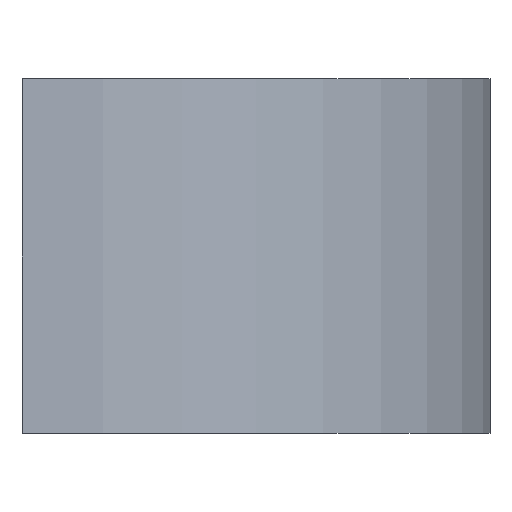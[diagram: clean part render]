
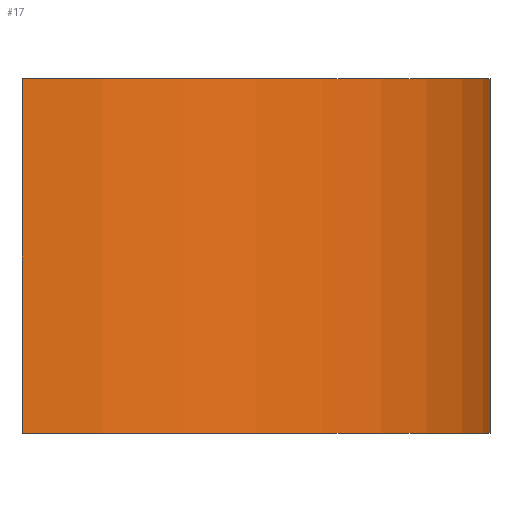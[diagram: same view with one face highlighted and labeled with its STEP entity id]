
A CAD part, front view. The second image highlights one B-rep face of the part: STEP entity #17.
In plain terms, the highlighted cylindrical face has radius 4.49 mm (diameter 8.98 mm), a partial arc.
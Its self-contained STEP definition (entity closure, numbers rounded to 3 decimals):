
#17 = ADVANCED_FACE('',(#18),#32,.T.);
#18 = FACE_BOUND('',#19,.T.);
#19 = EDGE_LOOP('',(#20,#55,#84,#110));
#20 = ORIENTED_EDGE('',*,*,#21,.T.);
#21 = EDGE_CURVE('',#22,#24,#26,.T.);
#22 = VERTEX_POINT('',#23);
#23 = CARTESIAN_POINT('',(4.49,0.,1.8));
#24 = VERTEX_POINT('',#25);
#25 = CARTESIAN_POINT('',(4.49,0.,5.2));
#26 = SURFACE_CURVE('',#27,(#31,#43),.PCURVE_S1.);
#27 = LINE('',#28,#29);
#28 = CARTESIAN_POINT('',(4.49,0.,1.8));
#29 = VECTOR('',#30,1.);
#30 = DIRECTION('',(0.,0.,1.));
#31 = PCURVE('',#32,#37);
#32 = CYLINDRICAL_SURFACE('',#33,4.49);
#33 = AXIS2_PLACEMENT_3D('',#34,#35,#36);
#34 = CARTESIAN_POINT('',(0.,0.,1.8));
#35 = DIRECTION('',(0.,0.,1.));
#36 = DIRECTION('',(1.,0.,-0.));
#37 = DEFINITIONAL_REPRESENTATION('',(#38),#42);
#38 = LINE('',#39,#40);
#39 = CARTESIAN_POINT('',(6.283,-0.));
#40 = VECTOR('',#41,1.);
#41 = DIRECTION('',(0.,1.));
#42 = ( GEOMETRIC_REPRESENTATION_CONTEXT(2) 
PARAMETRIC_REPRESENTATION_CONTEXT() REPRESENTATION_CONTEXT('2D SPACE',''
  ) );
#43 = PCURVE('',#44,#49);
#44 = CYLINDRICAL_SURFACE('',#45,4.49);
#45 = AXIS2_PLACEMENT_3D('',#46,#47,#48);
#46 = CARTESIAN_POINT('',(0.,0.,1.8));
#47 = DIRECTION('',(0.,0.,1.));
#48 = DIRECTION('',(1.,0.,-0.));
#49 = DEFINITIONAL_REPRESENTATION('',(#50),#54);
#50 = LINE('',#51,#52);
#51 = CARTESIAN_POINT('',(0.,-0.));
#52 = VECTOR('',#53,1.);
#53 = DIRECTION('',(0.,1.));
#54 = ( GEOMETRIC_REPRESENTATION_CONTEXT(2) 
PARAMETRIC_REPRESENTATION_CONTEXT() REPRESENTATION_CONTEXT('2D SPACE',''
  ) );
#55 = ORIENTED_EDGE('',*,*,#56,.F.);
#56 = EDGE_CURVE('',#57,#24,#59,.T.);
#57 = VERTEX_POINT('',#58);
#58 = CARTESIAN_POINT('',(0.,-4.49,5.2));
#59 = SURFACE_CURVE('',#60,(#65,#72),.PCURVE_S1.);
#60 = CIRCLE('',#61,4.49);
#61 = AXIS2_PLACEMENT_3D('',#62,#63,#64);
#62 = CARTESIAN_POINT('',(0.,0.,5.2));
#63 = DIRECTION('',(0.,0.,1.));
#64 = DIRECTION('',(1.,0.,-0.));
#65 = PCURVE('',#32,#66);
#66 = DEFINITIONAL_REPRESENTATION('',(#67),#71);
#67 = LINE('',#68,#69);
#68 = CARTESIAN_POINT('',(0.,3.4));
#69 = VECTOR('',#70,1.);
#70 = DIRECTION('',(1.,0.));
#71 = ( GEOMETRIC_REPRESENTATION_CONTEXT(2) 
PARAMETRIC_REPRESENTATION_CONTEXT() REPRESENTATION_CONTEXT('2D SPACE',''
  ) );
#72 = PCURVE('',#73,#78);
#73 = PLANE('',#74);
#74 = AXIS2_PLACEMENT_3D('',#75,#76,#77);
#75 = CARTESIAN_POINT('',(0.,0.,5.2));
#76 = DIRECTION('',(0.,0.,1.));
#77 = DIRECTION('',(1.,0.,-0.));
#78 = DEFINITIONAL_REPRESENTATION('',(#79),#83);
#79 = CIRCLE('',#80,4.49);
#80 = AXIS2_PLACEMENT_2D('',#81,#82);
#81 = CARTESIAN_POINT('',(0.,0.));
#82 = DIRECTION('',(1.,0.));
#83 = ( GEOMETRIC_REPRESENTATION_CONTEXT(2) 
PARAMETRIC_REPRESENTATION_CONTEXT() REPRESENTATION_CONTEXT('2D SPACE',''
  ) );
#84 = ORIENTED_EDGE('',*,*,#85,.F.);
#85 = EDGE_CURVE('',#86,#57,#88,.T.);
#86 = VERTEX_POINT('',#87);
#87 = CARTESIAN_POINT('',(0.,-4.49,1.8));
#88 = SURFACE_CURVE('',#89,(#93,#99),.PCURVE_S1.);
#89 = LINE('',#90,#91);
#90 = CARTESIAN_POINT('',(0.,-4.49,1.8));
#91 = VECTOR('',#92,1.);
#92 = DIRECTION('',(0.,0.,1.));
#93 = PCURVE('',#32,#94);
#94 = DEFINITIONAL_REPRESENTATION('',(#95),#98);
#95 = B_SPLINE_CURVE_WITH_KNOTS('',1,(#96,#97),.UNSPECIFIED.,.F.,.F.,(2,
    2),(0.,3.4),.PIECEWISE_BEZIER_KNOTS.);
#96 = CARTESIAN_POINT('',(4.712,0.));
#97 = CARTESIAN_POINT('',(4.712,3.4));
#98 = ( GEOMETRIC_REPRESENTATION_CONTEXT(2) 
PARAMETRIC_REPRESENTATION_CONTEXT() REPRESENTATION_CONTEXT('2D SPACE',''
  ) );
#99 = PCURVE('',#100,#105);
#100 = PLANE('',#101);
#101 = AXIS2_PLACEMENT_3D('',#102,#103,#104);
#102 = CARTESIAN_POINT('',(0.,-60.,-70.));
#103 = DIRECTION('',(1.,0.,0.));
#104 = DIRECTION('',(0.,0.,1.));
#105 = DEFINITIONAL_REPRESENTATION('',(#106),#109);
#106 = B_SPLINE_CURVE_WITH_KNOTS('',1,(#107,#108),.UNSPECIFIED.,.F.,.F.,
  (2,2),(0.,3.4),.PIECEWISE_BEZIER_KNOTS.);
#107 = CARTESIAN_POINT('',(71.8,-55.51));
#108 = CARTESIAN_POINT('',(75.2,-55.51));
#109 = ( GEOMETRIC_REPRESENTATION_CONTEXT(2) 
PARAMETRIC_REPRESENTATION_CONTEXT() REPRESENTATION_CONTEXT('2D SPACE',''
  ) );
#110 = ORIENTED_EDGE('',*,*,#111,.T.);
#111 = EDGE_CURVE('',#86,#22,#112,.T.);
#112 = SURFACE_CURVE('',#113,(#118,#125),.PCURVE_S1.);
#113 = CIRCLE('',#114,4.49);
#114 = AXIS2_PLACEMENT_3D('',#115,#116,#117);
#115 = CARTESIAN_POINT('',(0.,0.,1.8));
#116 = DIRECTION('',(0.,0.,1.));
#117 = DIRECTION('',(1.,0.,-0.));
#118 = PCURVE('',#32,#119);
#119 = DEFINITIONAL_REPRESENTATION('',(#120),#124);
#120 = LINE('',#121,#122);
#121 = CARTESIAN_POINT('',(0.,0.));
#122 = VECTOR('',#123,1.);
#123 = DIRECTION('',(1.,0.));
#124 = ( GEOMETRIC_REPRESENTATION_CONTEXT(2) 
PARAMETRIC_REPRESENTATION_CONTEXT() REPRESENTATION_CONTEXT('2D SPACE',''
  ) );
#125 = PCURVE('',#126,#131);
#126 = PLANE('',#127);
#127 = AXIS2_PLACEMENT_3D('',#128,#129,#130);
#128 = CARTESIAN_POINT('',(0.,0.,1.8));
#129 = DIRECTION('',(0.,0.,1.));
#130 = DIRECTION('',(1.,0.,-0.));
#131 = DEFINITIONAL_REPRESENTATION('',(#132),#136);
#132 = CIRCLE('',#133,4.49);
#133 = AXIS2_PLACEMENT_2D('',#134,#135);
#134 = CARTESIAN_POINT('',(0.,0.));
#135 = DIRECTION('',(1.,0.));
#136 = ( GEOMETRIC_REPRESENTATION_CONTEXT(2) 
PARAMETRIC_REPRESENTATION_CONTEXT() REPRESENTATION_CONTEXT('2D SPACE',''
  ) );
